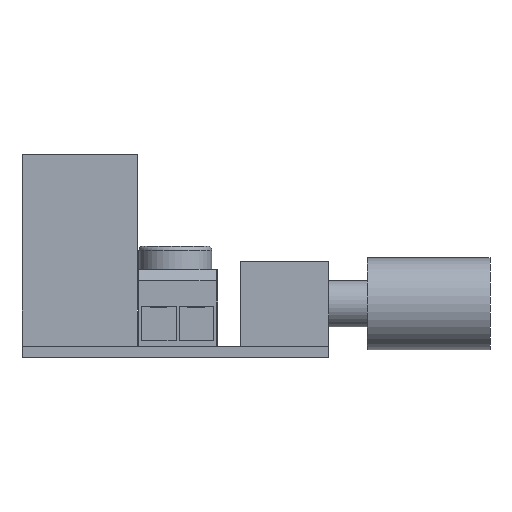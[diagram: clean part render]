
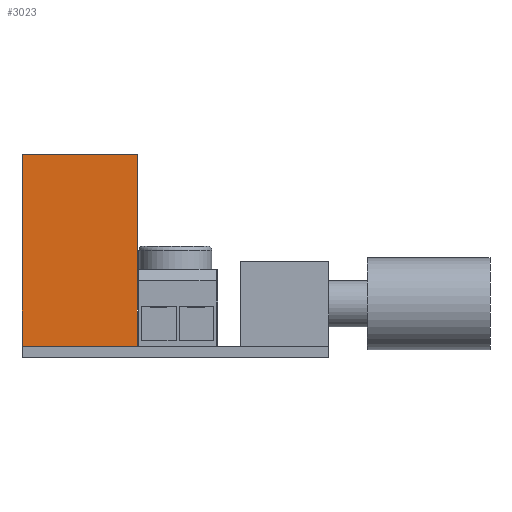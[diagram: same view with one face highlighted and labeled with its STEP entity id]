
A CAD part, left-side view. The second image highlights one B-rep face of the part: STEP entity #3023.
In plain terms, the highlighted planar face has unit normal (-1, 0, 0).
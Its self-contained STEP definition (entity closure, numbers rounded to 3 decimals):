
#1510 = VERTEX_POINT('',#1511);
#1511 = CARTESIAN_POINT('',(-11.5,7.5,0.));
#1520 = PLANE('',#1521);
#1521 = AXIS2_PLACEMENT_3D('',#1522,#1523,#1524);
#1522 = CARTESIAN_POINT('',(-11.5,7.5,0.));
#1523 = DIRECTION('',(0.,1.,0.));
#1524 = DIRECTION('',(1.,0.,0.));
#1532 = PLANE('',#1533);
#1533 = AXIS2_PLACEMENT_3D('',#1534,#1535,#1536);
#1534 = CARTESIAN_POINT('',(0.,0.,0.));
#1535 = DIRECTION('',(-0.,-0.,-1.));
#1536 = DIRECTION('',(-1.,0.,0.));
#1544 = EDGE_CURVE('',#1510,#1545,#1547,.T.);
#1545 = VERTEX_POINT('',#1546);
#1546 = CARTESIAN_POINT('',(-11.5,7.5,25.));
#1547 = SURFACE_CURVE('',#1548,(#1552,#1559),.PCURVE_S1.);
#1548 = LINE('',#1549,#1550);
#1549 = CARTESIAN_POINT('',(-11.5,7.5,0.));
#1550 = VECTOR('',#1551,1.);
#1551 = DIRECTION('',(0.,0.,1.));
#1552 = PCURVE('',#1520,#1553);
#1553 = DEFINITIONAL_REPRESENTATION('',(#1554),#1558);
#1554 = LINE('',#1555,#1556);
#1555 = CARTESIAN_POINT('',(0.,0.));
#1556 = VECTOR('',#1557,1.);
#1557 = DIRECTION('',(0.,-1.));
#1558 = ( GEOMETRIC_REPRESENTATION_CONTEXT(2) 
PARAMETRIC_REPRESENTATION_CONTEXT() REPRESENTATION_CONTEXT('2D SPACE',''
  ) );
#1559 = PCURVE('',#1560,#1565);
#1560 = PLANE('',#1561);
#1561 = AXIS2_PLACEMENT_3D('',#1562,#1563,#1564);
#1562 = CARTESIAN_POINT('',(-11.5,-7.5,0.));
#1563 = DIRECTION('',(-1.,0.,0.));
#1564 = DIRECTION('',(0.,1.,0.));
#1565 = DEFINITIONAL_REPRESENTATION('',(#1566),#1570);
#1566 = LINE('',#1567,#1568);
#1567 = CARTESIAN_POINT('',(15.,0.));
#1568 = VECTOR('',#1569,1.);
#1569 = DIRECTION('',(0.,-1.));
#1570 = ( GEOMETRIC_REPRESENTATION_CONTEXT(2) 
PARAMETRIC_REPRESENTATION_CONTEXT() REPRESENTATION_CONTEXT('2D SPACE',''
  ) );
#1588 = PLANE('',#1589);
#1589 = AXIS2_PLACEMENT_3D('',#1590,#1591,#1592);
#1590 = CARTESIAN_POINT('',(0.,0.,25.));
#1591 = DIRECTION('',(-0.,-0.,-1.));
#1592 = DIRECTION('',(-1.,0.,0.));
#1629 = EDGE_CURVE('',#1630,#1510,#1632,.T.);
#1630 = VERTEX_POINT('',#1631);
#1631 = CARTESIAN_POINT('',(-11.5,-7.5,0.));
#1632 = SURFACE_CURVE('',#1633,(#1637,#1644),.PCURVE_S1.);
#1633 = LINE('',#1634,#1635);
#1634 = CARTESIAN_POINT('',(-11.5,-7.5,0.));
#1635 = VECTOR('',#1636,1.);
#1636 = DIRECTION('',(0.,1.,0.));
#1637 = PCURVE('',#1532,#1638);
#1638 = DEFINITIONAL_REPRESENTATION('',(#1639),#1643);
#1639 = LINE('',#1640,#1641);
#1640 = CARTESIAN_POINT('',(11.5,-7.5));
#1641 = VECTOR('',#1642,1.);
#1642 = DIRECTION('',(0.,1.));
#1643 = ( GEOMETRIC_REPRESENTATION_CONTEXT(2) 
PARAMETRIC_REPRESENTATION_CONTEXT() REPRESENTATION_CONTEXT('2D SPACE',''
  ) );
#1644 = PCURVE('',#1560,#1645);
#1645 = DEFINITIONAL_REPRESENTATION('',(#1646),#1650);
#1646 = LINE('',#1647,#1648);
#1647 = CARTESIAN_POINT('',(0.,0.));
#1648 = VECTOR('',#1649,1.);
#1649 = DIRECTION('',(1.,0.));
#1650 = ( GEOMETRIC_REPRESENTATION_CONTEXT(2) 
PARAMETRIC_REPRESENTATION_CONTEXT() REPRESENTATION_CONTEXT('2D SPACE',''
  ) );
#2362 = PLANE('',#2363);
#2363 = AXIS2_PLACEMENT_3D('',#2364,#2365,#2366);
#2364 = CARTESIAN_POINT('',(11.5,-7.5,0.));
#2365 = DIRECTION('',(0.,-1.,0.));
#2366 = DIRECTION('',(-1.,0.,0.));
#2426 = EDGE_CURVE('',#2427,#1545,#2429,.T.);
#2427 = VERTEX_POINT('',#2428);
#2428 = CARTESIAN_POINT('',(-11.5,-7.5,25.));
#2429 = SURFACE_CURVE('',#2430,(#2434,#2441),.PCURVE_S1.);
#2430 = LINE('',#2431,#2432);
#2431 = CARTESIAN_POINT('',(-11.5,-7.5,25.));
#2432 = VECTOR('',#2433,1.);
#2433 = DIRECTION('',(0.,1.,0.));
#2434 = PCURVE('',#1588,#2435);
#2435 = DEFINITIONAL_REPRESENTATION('',(#2436),#2440);
#2436 = LINE('',#2437,#2438);
#2437 = CARTESIAN_POINT('',(11.5,-7.5));
#2438 = VECTOR('',#2439,1.);
#2439 = DIRECTION('',(0.,1.));
#2440 = ( GEOMETRIC_REPRESENTATION_CONTEXT(2) 
PARAMETRIC_REPRESENTATION_CONTEXT() REPRESENTATION_CONTEXT('2D SPACE',''
  ) );
#2441 = PCURVE('',#1560,#2442);
#2442 = DEFINITIONAL_REPRESENTATION('',(#2443),#2447);
#2443 = LINE('',#2444,#2445);
#2444 = CARTESIAN_POINT('',(0.,-25.));
#2445 = VECTOR('',#2446,1.);
#2446 = DIRECTION('',(1.,0.));
#2447 = ( GEOMETRIC_REPRESENTATION_CONTEXT(2) 
PARAMETRIC_REPRESENTATION_CONTEXT() REPRESENTATION_CONTEXT('2D SPACE',''
  ) );
#3023 = ADVANCED_FACE('',(#3024),#1560,.T.);
#3024 = FACE_BOUND('',#3025,.T.);
#3025 = EDGE_LOOP('',(#3026,#3047,#3048,#3049));
#3026 = ORIENTED_EDGE('',*,*,#3027,.T.);
#3027 = EDGE_CURVE('',#1630,#2427,#3028,.T.);
#3028 = SURFACE_CURVE('',#3029,(#3033,#3040),.PCURVE_S1.);
#3029 = LINE('',#3030,#3031);
#3030 = CARTESIAN_POINT('',(-11.5,-7.5,0.));
#3031 = VECTOR('',#3032,1.);
#3032 = DIRECTION('',(0.,0.,1.));
#3033 = PCURVE('',#1560,#3034);
#3034 = DEFINITIONAL_REPRESENTATION('',(#3035),#3039);
#3035 = LINE('',#3036,#3037);
#3036 = CARTESIAN_POINT('',(0.,0.));
#3037 = VECTOR('',#3038,1.);
#3038 = DIRECTION('',(0.,-1.));
#3039 = ( GEOMETRIC_REPRESENTATION_CONTEXT(2) 
PARAMETRIC_REPRESENTATION_CONTEXT() REPRESENTATION_CONTEXT('2D SPACE',''
  ) );
#3040 = PCURVE('',#2362,#3041);
#3041 = DEFINITIONAL_REPRESENTATION('',(#3042),#3046);
#3042 = LINE('',#3043,#3044);
#3043 = CARTESIAN_POINT('',(23.,0.));
#3044 = VECTOR('',#3045,1.);
#3045 = DIRECTION('',(0.,-1.));
#3046 = ( GEOMETRIC_REPRESENTATION_CONTEXT(2) 
PARAMETRIC_REPRESENTATION_CONTEXT() REPRESENTATION_CONTEXT('2D SPACE',''
  ) );
#3047 = ORIENTED_EDGE('',*,*,#2426,.T.);
#3048 = ORIENTED_EDGE('',*,*,#1544,.F.);
#3049 = ORIENTED_EDGE('',*,*,#1629,.F.);
